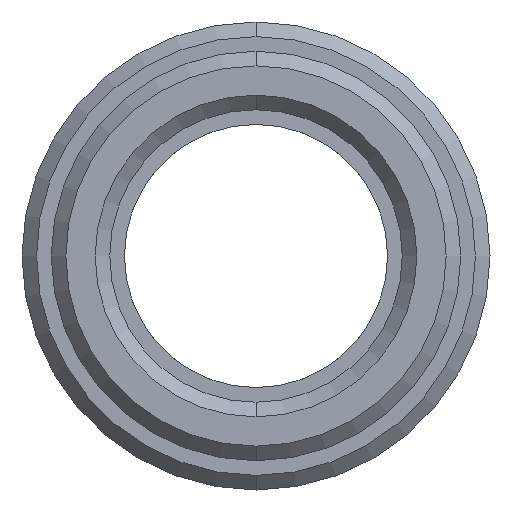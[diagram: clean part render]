
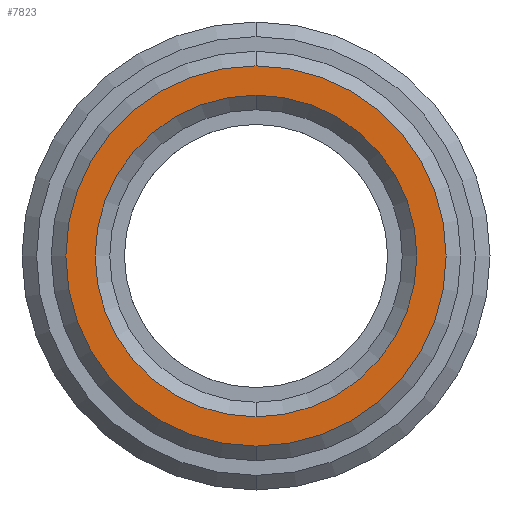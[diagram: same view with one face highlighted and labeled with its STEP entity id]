
A CAD part, left-side view. The second image highlights one B-rep face of the part: STEP entity #7823.
In plain terms, the highlighted planar face has unit normal (-1, 0, 0).
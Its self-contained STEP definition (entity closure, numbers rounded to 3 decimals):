
#2951=CARTESIAN_POINT('',(-5.,0.,0.));
#2952=DIRECTION('',(1.,0.,0.));
#2953=DIRECTION('',(0.,0.,-1.));
#2954=AXIS2_PLACEMENT_3D('',#2951,#2952,#2953);
#2956=CARTESIAN_POINT('',(-5.,0.,0.));
#2957=DIRECTION('',(1.,0.,0.));
#2958=DIRECTION('',(0.,0.,1.));
#2959=AXIS2_PLACEMENT_3D('',#2956,#2957,#2958);
#2961=CARTESIAN_POINT('',(-5.,0.,0.));
#2962=DIRECTION('',(1.,0.,0.));
#2963=DIRECTION('',(0.,0.,-1.));
#2964=AXIS2_PLACEMENT_3D('',#2961,#2962,#2963);
#2966=CARTESIAN_POINT('',(-5.,0.,0.));
#2967=DIRECTION('',(1.,0.,0.));
#2968=DIRECTION('',(0.,0.,1.));
#2969=AXIS2_PLACEMENT_3D('',#2966,#2967,#2968);
#6402=CARTESIAN_POINT('',(-5.,0.,-6.5));
#6403=CARTESIAN_POINT('',(-5.,0.,6.5));
#6404=VERTEX_POINT('',#6402);
#6405=VERTEX_POINT('',#6403);
#6422=CARTESIAN_POINT('',(-5.,0.,-5.5));
#6423=CARTESIAN_POINT('',(-5.,0.,5.5));
#6424=VERTEX_POINT('',#6422);
#6425=VERTEX_POINT('',#6423);
#7807=CARTESIAN_POINT('',(-5.,0.,0.));
#7808=DIRECTION('',(1.,0.,0.));
#7809=DIRECTION('',(0.,0.,1.));
#7810=AXIS2_PLACEMENT_3D('',#7807,#7808,#7809);
#7811=PLANE('',#7810);
#7813=ORIENTED_EDGE('',*,*,#7812,.T.);
#7815=ORIENTED_EDGE('',*,*,#7814,.T.);
#7816=EDGE_LOOP('',(#7813,#7815));
#7817=FACE_OUTER_BOUND('',#7816,.F.);
#7818=ORIENTED_EDGE('',*,*,#7797,.F.);
#7820=ORIENTED_EDGE('',*,*,#7819,.F.);
#7821=EDGE_LOOP('',(#7818,#7820));
#7822=FACE_BOUND('',#7821,.F.);
#7823=ADVANCED_FACE('',(#7817,#7822),#7811,.F.);
#2955=CIRCLE('',#2954,6.5);
#2960=CIRCLE('',#2959,6.5);
#2965=CIRCLE('',#2964,5.5);
#2970=CIRCLE('',#2969,5.5);
#7797=EDGE_CURVE('',#6424,#6425,#2965,.T.);
#7812=EDGE_CURVE('',#6404,#6405,#2955,.T.);
#7814=EDGE_CURVE('',#6405,#6404,#2960,.T.);
#7819=EDGE_CURVE('',#6425,#6424,#2970,.T.);
